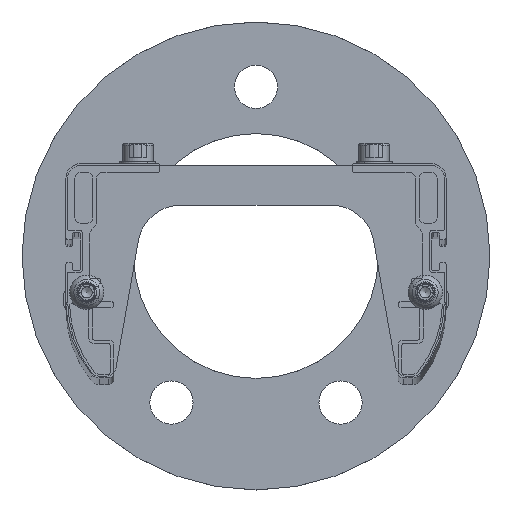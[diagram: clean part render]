
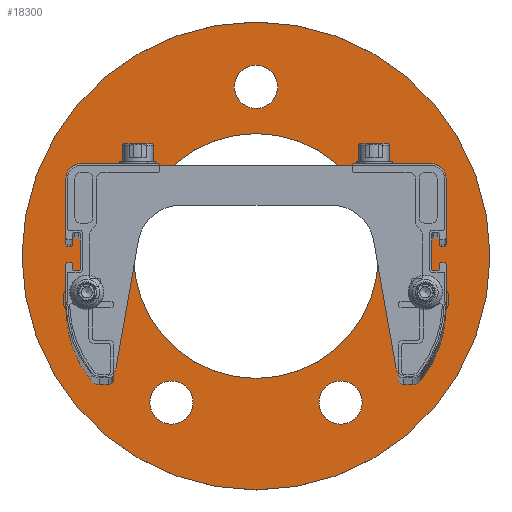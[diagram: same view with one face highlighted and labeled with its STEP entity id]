
A CAD part, top view. The second image highlights one B-rep face of the part: STEP entity #18300.
In plain terms, the highlighted planar face has unit normal (0, 0, 1).
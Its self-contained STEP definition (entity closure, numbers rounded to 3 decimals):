
#15609=PLANE('',#60781);
#18300=ADVANCED_FACE('',(#20223,#20224,#20225,#20226,#20227,#20228,#20229),
#15609,.T.);
#20223=FACE_BOUND('',#23045,.T.);
#20224=FACE_BOUND('',#23046,.T.);
#20225=FACE_BOUND('',#23047,.T.);
#20226=FACE_BOUND('',#23048,.T.);
#20227=FACE_BOUND('',#23049,.T.);
#20228=FACE_BOUND('',#23050,.T.);
#20229=FACE_BOUND('',#23051,.T.);
#23045=EDGE_LOOP('',(#36347));
#23046=EDGE_LOOP('',(#36348));
#23047=EDGE_LOOP('',(#36349));
#23048=EDGE_LOOP('',(#36350));
#23049=EDGE_LOOP('',(#36351));
#23050=EDGE_LOOP('',(#36352));
#23051=EDGE_LOOP('',(#36353));
#36347=ORIENTED_EDGE('',*,*,#51479,.F.);
#36348=ORIENTED_EDGE('',*,*,#51480,.F.);
#36349=ORIENTED_EDGE('',*,*,#51481,.F.);
#36350=ORIENTED_EDGE('',*,*,#51482,.T.);
#36351=ORIENTED_EDGE('',*,*,#51483,.T.);
#36352=ORIENTED_EDGE('',*,*,#51484,.T.);
#36353=ORIENTED_EDGE('',*,*,#51485,.F.);
#44083=VERTEX_POINT('',#92814);
#44084=VERTEX_POINT('',#92816);
#44085=VERTEX_POINT('',#92818);
#44086=VERTEX_POINT('',#92820);
#44087=VERTEX_POINT('',#92822);
#44088=VERTEX_POINT('',#92824);
#44089=VERTEX_POINT('',#92826);
#51479=EDGE_CURVE('',#44083,#44083,#55125,.T.);
#51480=EDGE_CURVE('',#44084,#44084,#55126,.T.);
#51481=EDGE_CURVE('',#44085,#44085,#55127,.T.);
#51482=EDGE_CURVE('',#44086,#44086,#55128,.T.);
#51483=EDGE_CURVE('',#44087,#44087,#55129,.T.);
#51484=EDGE_CURVE('',#44088,#44088,#55130,.T.);
#51485=EDGE_CURVE('',#44089,#44089,#55131,.T.);
#55125=CIRCLE('',#60774,6.);
#55126=CIRCLE('',#60775,6.);
#55127=CIRCLE('',#60776,6.);
#55128=CIRCLE('',#60777,34.);
#55129=CIRCLE('',#60778,3.6);
#55130=CIRCLE('',#60779,3.6);
#55131=CIRCLE('',#60780,65.);
#60774=AXIS2_PLACEMENT_3D('',#92813,#75604,#75605);
#60775=AXIS2_PLACEMENT_3D('',#92815,#75606,#75607);
#60776=AXIS2_PLACEMENT_3D('',#92817,#75608,#75609);
#60777=AXIS2_PLACEMENT_3D('',#92819,#75610,#75611);
#60778=AXIS2_PLACEMENT_3D('',#92821,#75612,#75613);
#60779=AXIS2_PLACEMENT_3D('',#92823,#75614,#75615);
#60780=AXIS2_PLACEMENT_3D('',#92825,#75616,#75617);
#60781=AXIS2_PLACEMENT_3D('',#92827,#75618,#75619);
#75604=DIRECTION('',(0.,0.,1.));
#75605=DIRECTION('',(-1.,0.,0.));
#75606=DIRECTION('',(0.,0.,1.));
#75607=DIRECTION('',(-1.,0.,0.));
#75608=DIRECTION('',(0.,0.,1.));
#75609=DIRECTION('',(-1.,0.,0.));
#75610=DIRECTION('',(0.,0.,-1.));
#75611=DIRECTION('',(-1.,0.,0.));
#75612=DIRECTION('',(0.,0.,-1.));
#75613=DIRECTION('',(1.,0.,0.));
#75614=DIRECTION('',(0.,0.,-1.));
#75615=DIRECTION('',(1.,0.,0.));
#75616=DIRECTION('',(0.,0.,-1.));
#75617=DIRECTION('',(-1.,0.,0.));
#75618=DIRECTION('',(0.,0.,1.));
#75619=DIRECTION('',(-1.,0.,0.));
#92813=CARTESIAN_POINT('',(293.846,-100.913,-285.));
#92814=CARTESIAN_POINT('',(287.846,-100.913,-285.));
#92815=CARTESIAN_POINT('',(317.346,-13.21,-285.));
#92816=CARTESIAN_POINT('',(311.346,-13.21,-285.));
#92817=CARTESIAN_POINT('',(340.846,-100.913,-285.));
#92818=CARTESIAN_POINT('',(334.846,-100.913,-285.));
#92819=CARTESIAN_POINT('',(317.346,-60.21,-285.));
#92820=CARTESIAN_POINT('',(283.346,-60.21,-285.));
#92821=CARTESIAN_POINT('',(364.346,-72.21,-285.));
#92822=CARTESIAN_POINT('',(367.946,-72.21,-285.));
#92823=CARTESIAN_POINT('',(270.346,-72.21,-285.));
#92824=CARTESIAN_POINT('',(273.946,-72.21,-285.));
#92825=CARTESIAN_POINT('',(317.346,-60.21,-285.));
#92826=CARTESIAN_POINT('',(252.346,-60.21,-285.));
#92827=CARTESIAN_POINT('',(252.346,-60.21,-285.));
